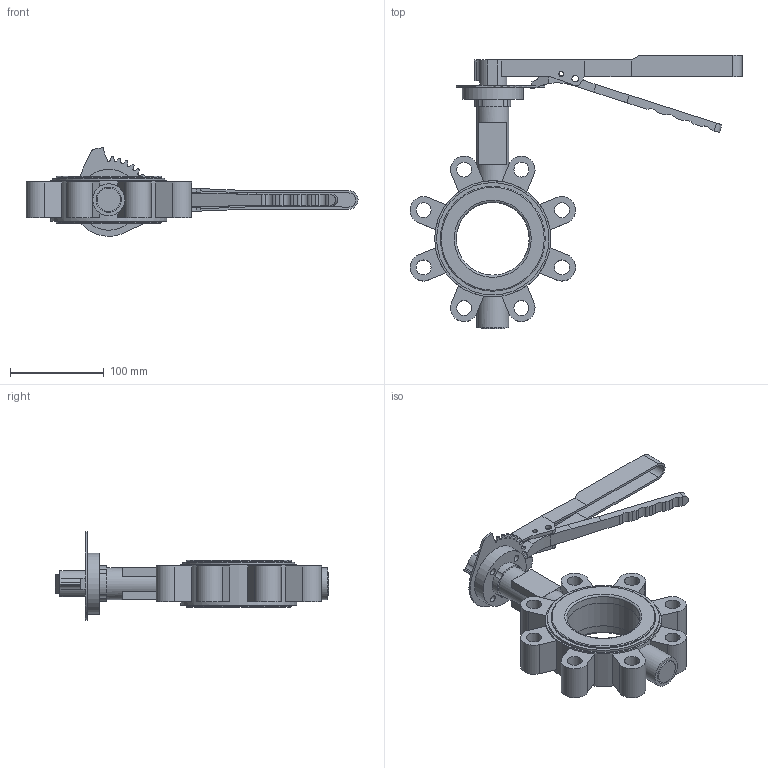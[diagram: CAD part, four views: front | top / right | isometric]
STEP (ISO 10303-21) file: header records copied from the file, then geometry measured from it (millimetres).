
FILE_DESCRIPTION (( 'STEP AP203' ), '1' );
FILE_NAME ('2502 LT型中线衬胶带销 手柄蝶阀 DN80 PN16 CD0309138.STEP', '2026-04-14T00:31:27', ( '' ), ( '' ), 'SwSTEP 2.0', 'SolidWorks 2018', '' );
FILE_SCHEMA (( 'CONFIG_CONTROL_DESIGN' ));
Length unit declared in the file: millimetre
Products named in the file (8): 2502 LT型中线衬胶带销 手柄蝶阀 DN80 PN16 CD0309138; GALA-D80-01LC(1)-00; YH-D50-80-06Y-01 DN40-DN80 喘攫; 新型玛钢手柄主手柄(长)-DN50-DN80-立方9-9004; 新型玛钢手柄装配体-DN50-DN80-立方11-9004; 新型玛钢手柄副手柄(长)-DN50-DN80-9004; DIN908 塞堵M20×1.5; GALA-D80-04AZC-00
Assembly tree (7 placements, depth 3):
  2502 LT型中线衬胶带销 手柄蝶阀 DN80 PN16 CD0309138
    GALA-D80-04AZC-00
    DIN908 塞堵M20×1.5
    GALA-D80-01LC(1)-00
    YH-D50-80-06Y-01 DN40-DN80 喘攫
    新型玛钢手柄装配体-DN50-DN80-立方11-9004
      新型玛钢手柄副手柄(长)-DN50-DN80-9004
      新型玛钢手柄主手柄(长)-DN50-DN80-立方9-9004
Bounding box: 354.57 x 292 x 94.53 mm (x, y, z)
Volume: 800105.1 mm3; surface area: 208596.6 mm2
Topology: 6 solids, 6 shells, 301 faces, 805 edges, 527 vertices
Faces by surface type: plane 151, cylinder 136, torus 8, cone 6
Full cylindrical faces by diameter (mm): 5 x4, 7 x10, 16 x8, 20 x1, 25 x2, 27 x1, 34 x2, 65 x1, 77.716 x1, 87 x2, 112 x4, 120 x1, 124 x1
Entity records: 10133 total; most frequent: CARTESIAN_POINT 1718, DIRECTION 1643, ORIENTED_EDGE 1482, EDGE_CURVE 741, AXIS2_PLACEMENT_3D 610, VERTEX_POINT 517, VECTOR 423, LINE 423
